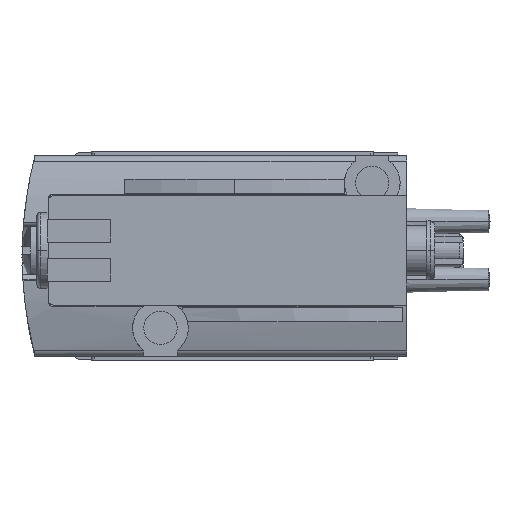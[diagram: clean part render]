
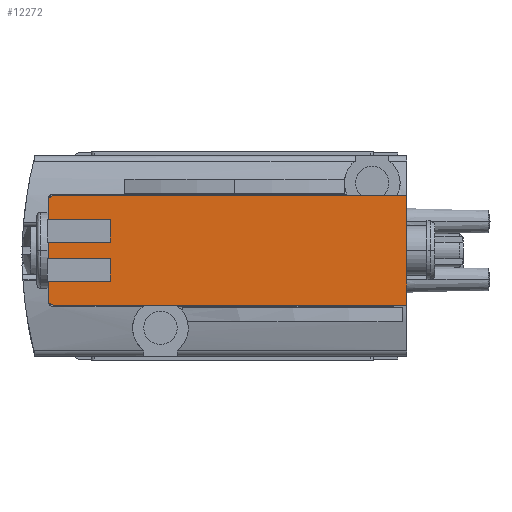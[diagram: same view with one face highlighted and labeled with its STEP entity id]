
A CAD part, left-side view. The second image highlights one B-rep face of the part: STEP entity #12272.
In plain terms, the highlighted planar face has unit normal (-1, 0, 0).
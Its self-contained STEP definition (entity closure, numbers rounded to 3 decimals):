
#132 = ORIENTED_EDGE ( 'NONE', *, *, #9508, .F. ) ;
#231 = CARTESIAN_POINT ( 'NONE',  ( -128.8, 69.1, -115.1 ) ) ;
#323 = VERTEX_POINT ( 'NONE', #10487 ) ;
#412 = ORIENTED_EDGE ( 'NONE', *, *, #7541, .F. ) ;
#508 = ORIENTED_EDGE ( 'NONE', *, *, #5610, .T. ) ;
#513 = VECTOR ( 'NONE', #1017, 1000. ) ;
#730 = LINE ( 'NONE', #7456, #2492 ) ;
#761 = CARTESIAN_POINT ( 'NONE',  ( -128.8, 42.5, -124.4 ) ) ;
#1006 = VERTEX_POINT ( 'NONE', #9328 ) ;
#1017 = DIRECTION ( 'NONE',  ( 0., 0., 1. ) ) ;
#1304 = CARTESIAN_POINT ( 'NONE',  ( -128.8, 69.1, -116.75 ) ) ;
#1323 = CARTESIAN_POINT ( 'NONE',  ( -128.8, 74.681, -115.1 ) ) ;
#1696 = LINE ( 'NONE', #10389, #7051 ) ;
#1745 = CARTESIAN_POINT ( 'NONE',  ( -128.8, 74.181, -114.6 ) ) ;
#1758 = DIRECTION ( 'NONE',  ( 0., 0., 1. ) ) ;
#1798 = CARTESIAN_POINT ( 'NONE',  ( -128.8, 69.1, -118.75 ) ) ;
#1886 = AXIS2_PLACEMENT_3D ( 'NONE', #11981, #5418, #11163 ) ;
#2084 = EDGE_CURVE ( 'NONE', #11050, #5336, #11159, .T. ) ;
#2106 = CARTESIAN_POINT ( 'NONE',  ( -128.8, 74.181, -115.1 ) ) ;
#2125 = ORIENTED_EDGE ( 'NONE', *, *, #9393, .T. ) ;
#2337 = ORIENTED_EDGE ( 'NONE', *, *, #10908, .F. ) ;
#2369 = ORIENTED_EDGE ( 'NONE', *, *, #6770, .T. ) ;
#2492 = VECTOR ( 'NONE', #2665, 1000. ) ;
#2515 = DIRECTION ( 'NONE',  ( 0., -1., 0. ) ) ;
#2638 = DIRECTION ( 'NONE',  ( 1., 0., 0. ) ) ;
#2665 = DIRECTION ( 'NONE',  ( 0., 0., 1. ) ) ;
#2983 = CARTESIAN_POINT ( 'NONE',  ( -128.8, 69.1, -122.25 ) ) ;
#3042 = VERTEX_POINT ( 'NONE', #761 ) ;
#3142 = CARTESIAN_POINT ( 'NONE',  ( -128.8, 69.1, -118.75 ) ) ;
#3459 = CARTESIAN_POINT ( 'NONE',  ( -128.8, 74.681, -122.25 ) ) ;
#3489 = LINE ( 'NONE', #12000, #9587 ) ;
#3641 = CARTESIAN_POINT ( 'NONE',  ( -128.8, 71.316, -124.4 ) ) ;
#3643 = CARTESIAN_POINT ( 'NONE',  ( -128.8, 74.681, -116.75 ) ) ;
#3746 = ORIENTED_EDGE ( 'NONE', *, *, #4902, .T. ) ;
#3818 = ORIENTED_EDGE ( 'NONE', *, *, #12121, .F. ) ;
#3847 = CARTESIAN_POINT ( 'NONE',  ( -128.8, 74.681, -115.1 ) ) ;
#3914 = CARTESIAN_POINT ( 'NONE',  ( -128.8, 69.1, -122.25 ) ) ;
#4131 = VECTOR ( 'NONE', #9158, 1000. ) ;
#4320 = ORIENTED_EDGE ( 'NONE', *, *, #4649, .T. ) ;
#4361 = VECTOR ( 'NONE', #7024, 1000. ) ;
#4649 = EDGE_CURVE ( 'NONE', #6113, #9924, #3489, .T. ) ;
#4687 = ORIENTED_EDGE ( 'NONE', *, *, #8599, .F. ) ;
#4704 = CARTESIAN_POINT ( 'NONE',  ( -128.8, 69.1, -120.25 ) ) ;
#4811 = LINE ( 'NONE', #1798, #11788 ) ;
#4902 = EDGE_CURVE ( 'NONE', #9195, #6754, #7837, .T. ) ;
#5167 = DIRECTION ( 'NONE',  ( 0., 0., 1. ) ) ;
#5336 = VERTEX_POINT ( 'NONE', #7820 ) ;
#5342 = AXIS2_PLACEMENT_3D ( 'NONE', #7614, #2638, #8632 ) ;
#5418 = DIRECTION ( 'NONE',  ( 1., 0., 0. ) ) ;
#5609 = CARTESIAN_POINT ( 'NONE',  ( -128.8, 42.5, -125.5 ) ) ;
#5610 = EDGE_CURVE ( 'NONE', #8111, #5336, #4811, .T. ) ;
#5631 = DIRECTION ( 'NONE',  ( 0., 1., 0. ) ) ;
#5682 = CARTESIAN_POINT ( 'NONE',  ( -128.8, 42.5, -114.6 ) ) ;
#5761 = ORIENTED_EDGE ( 'NONE', *, *, #5801, .F. ) ;
#5801 = EDGE_CURVE ( 'NONE', #8111, #5813, #8869, .T. ) ;
#5813 = VERTEX_POINT ( 'NONE', #1304 ) ;
#5940 = EDGE_LOOP ( 'NONE', ( #3818, #7419, #2125, #5761, #508, #12426, #2369, #4687, #3746, #2337, #132, #8637, #412, #4320 ) ) ;
#6113 = VERTEX_POINT ( 'NONE', #5682 ) ;
#6320 = VECTOR ( 'NONE', #1758, 1000. ) ;
#6564 = LINE ( 'NONE', #5609, #9125 ) ;
#6716 = AXIS2_PLACEMENT_3D ( 'NONE', #2106, #9856, #10802 ) ;
#6754 = VERTEX_POINT ( 'NONE', #3459 ) ;
#6770 = EDGE_CURVE ( 'NONE', #11050, #8402, #1696, .T. ) ;
#7024 = DIRECTION ( 'NONE',  ( 0., 0., 1. ) ) ;
#7051 = VECTOR ( 'NONE', #2515, 1000. ) ;
#7327 = DIRECTION ( 'NONE',  ( 0., 1., 0. ) ) ;
#7419 = ORIENTED_EDGE ( 'NONE', *, *, #9080, .F. ) ;
#7456 = CARTESIAN_POINT ( 'NONE',  ( -128.8, 69.1, -115.1 ) ) ;
#7541 = EDGE_CURVE ( 'NONE', #6113, #3042, #6564, .T. ) ;
#7614 = CARTESIAN_POINT ( 'NONE',  ( -128.8, 74.181, -123.9 ) ) ;
#7766 = CIRCLE ( 'NONE', #5342, 0.5 ) ;
#7820 = CARTESIAN_POINT ( 'NONE',  ( -128.8, 74.681, -118.75 ) ) ;
#7837 = LINE ( 'NONE', #2983, #11003 ) ;
#8049 = CARTESIAN_POINT ( 'NONE',  ( -128.8, 74.681, -115.1 ) ) ;
#8111 = VERTEX_POINT ( 'NONE', #3142 ) ;
#8151 = FACE_OUTER_BOUND ( 'NONE', #5940, .T. ) ;
#8370 = VECTOR ( 'NONE', #12456, 1000. ) ;
#8391 = CARTESIAN_POINT ( 'NONE',  ( -128.8, 74.681, -115.1 ) ) ;
#8402 = VERTEX_POINT ( 'NONE', #4704 ) ;
#8599 = EDGE_CURVE ( 'NONE', #9195, #8402, #730, .T. ) ;
#8632 = DIRECTION ( 'NONE',  ( 0., 0., -1. ) ) ;
#8637 = ORIENTED_EDGE ( 'NONE', *, *, #9546, .F. ) ;
#8869 = LINE ( 'NONE', #231, #4361 ) ;
#9080 = EDGE_CURVE ( 'NONE', #10755, #11316, #10999, .T. ) ;
#9100 = VECTOR ( 'NONE', #5167, 1000. ) ;
#9125 = VECTOR ( 'NONE', #12412, 1000. ) ;
#9158 = DIRECTION ( 'NONE',  ( 0., -1., 0. ) ) ;
#9195 = VERTEX_POINT ( 'NONE', #3914 ) ;
#9328 = CARTESIAN_POINT ( 'NONE',  ( -128.8, 74.181, -124.4 ) ) ;
#9393 = EDGE_CURVE ( 'NONE', #10755, #5813, #11160, .T. ) ;
#9508 = EDGE_CURVE ( 'NONE', #1006, #323, #7766, .T. ) ;
#9546 = EDGE_CURVE ( 'NONE', #3042, #1006, #12271, .T. ) ;
#9587 = VECTOR ( 'NONE', #7327, 1000. ) ;
#9856 = DIRECTION ( 'NONE',  ( 1., 0., 0. ) ) ;
#9924 = VERTEX_POINT ( 'NONE', #1745 ) ;
#10149 = CARTESIAN_POINT ( 'NONE',  ( -128.8, 74.681, -120.25 ) ) ;
#10162 = CARTESIAN_POINT ( 'NONE',  ( -128.8, 72.347, -116.75 ) ) ;
#10389 = CARTESIAN_POINT ( 'NONE',  ( -128.8, 72.581, -120.25 ) ) ;
#10487 = CARTESIAN_POINT ( 'NONE',  ( -128.8, 74.681, -123.9 ) ) ;
#10547 = DIRECTION ( 'NONE',  ( 0., 1., 0. ) ) ;
#10755 = VERTEX_POINT ( 'NONE', #3643 ) ;
#10802 = DIRECTION ( 'NONE',  ( 0., 0., -1. ) ) ;
#10908 = EDGE_CURVE ( 'NONE', #323, #6754, #11767, .T. ) ;
#10999 = LINE ( 'NONE', #3847, #513 ) ;
#11003 = VECTOR ( 'NONE', #10547, 1000. ) ;
#11050 = VERTEX_POINT ( 'NONE', #10149 ) ;
#11151 = CIRCLE ( 'NONE', #6716, 0.5 ) ;
#11159 = LINE ( 'NONE', #8391, #6320 ) ;
#11160 = LINE ( 'NONE', #10162, #4131 ) ;
#11163 = DIRECTION ( 'NONE',  ( 0., 1., 0. ) ) ;
#11316 = VERTEX_POINT ( 'NONE', #8049 ) ;
#11767 = LINE ( 'NONE', #1323, #9100 ) ;
#11788 = VECTOR ( 'NONE', #5631, 1000. ) ;
#11981 = CARTESIAN_POINT ( 'NONE',  ( -128.8, 71.316, -115.1 ) ) ;
#12000 = CARTESIAN_POINT ( 'NONE',  ( -128.8, 71.316, -114.6 ) ) ;
#12100 = PLANE ( 'NONE',  #1886 ) ;
#12121 = EDGE_CURVE ( 'NONE', #11316, #9924, #11151, .T. ) ;
#12271 = LINE ( 'NONE', #3641, #8370 ) ;
#12272 = ADVANCED_FACE ( 'NONE', ( #8151 ), #12100, .F. ) ;
#12412 = DIRECTION ( 'NONE',  ( 0., 0., -1. ) ) ;
#12426 = ORIENTED_EDGE ( 'NONE', *, *, #2084, .F. ) ;
#12456 = DIRECTION ( 'NONE',  ( 0., 1., 0. ) ) ;
